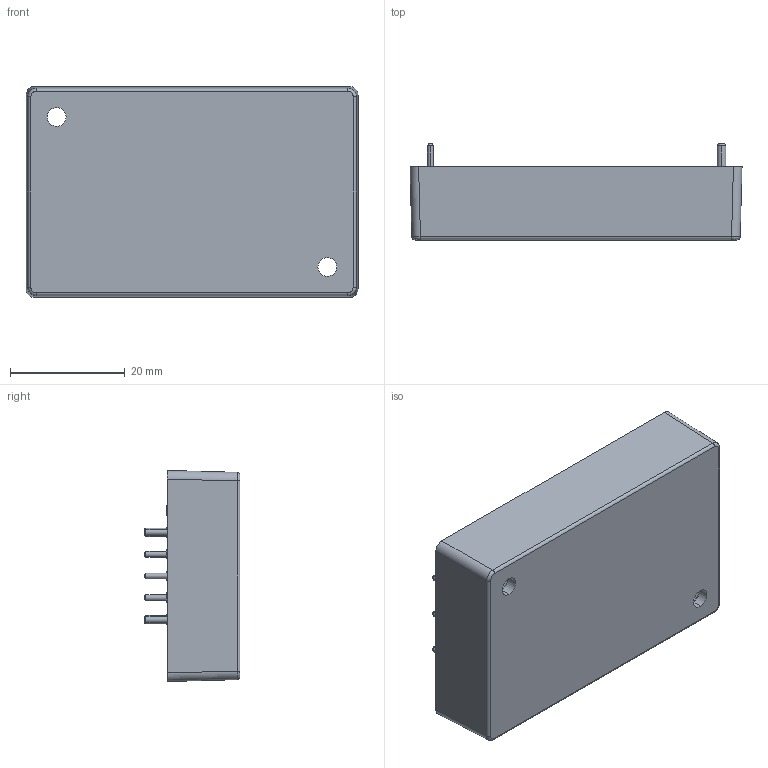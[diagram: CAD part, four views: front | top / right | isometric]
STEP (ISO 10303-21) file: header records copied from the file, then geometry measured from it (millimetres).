
FILE_DESCRIPTION (( 'STEP AP214' ), '1' );
FILE_NAME ('QAM60T-S.STEP', '2026-03-09T09:41:21', ( '' ), ( '' ), 'SwSTEP 2.0', 'SolidWorks 2024', '' );
FILE_SCHEMA (( 'AUTOMOTIVE_DESIGN' ));
Length unit declared in the file: millimetre
Products named in the file (1): QAM60T-S
Bounding box: 57.9 x 16.7 x 36.8 mm (x, y, z)
Volume: 26037.4 mm3; surface area: 7242.6 mm2
Topology: 1 solids, 1 shells, 283 faces, 679 edges, 438 vertices
Faces by surface type: plane 94, bspline 85, cylinder 64, cone 24, torus 16
Entity records: 12890 total; most frequent: CARTESIAN_POINT 6726, ORIENTED_EDGE 1358, DIRECTION 1075, EDGE_CURVE 679, VERTEX_POINT 438, AXIS2_PLACEMENT_3D 375, EDGE_LOOP 327, LINE 325
